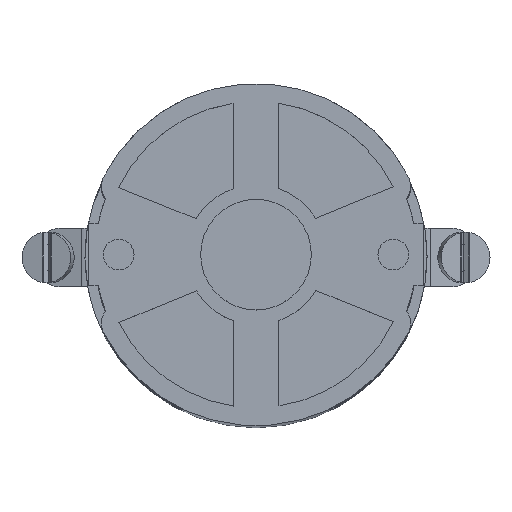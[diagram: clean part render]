
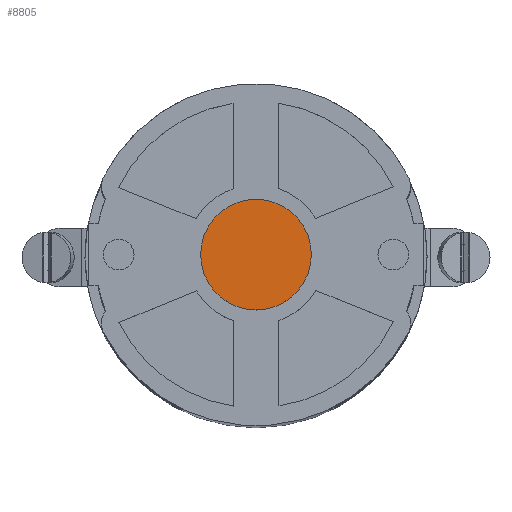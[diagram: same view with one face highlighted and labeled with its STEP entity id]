
A CAD part, top view. The second image highlights one B-rep face of the part: STEP entity #8805.
In plain terms, the highlighted planar face has unit normal (0, 0, 1).
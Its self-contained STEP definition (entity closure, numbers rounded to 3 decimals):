
#1176=FACE_OUTER_BOUND('',#12380,.T.);
#8805=ADVANCED_FACE('',(#1176),#10476,.T.);
#10476=PLANE('',#32441);
#12380=EDGE_LOOP('',(#15098));
#15098=ORIENTED_EDGE('',*,*,#27182,.F.);
#23927=VERTEX_POINT('',#44563);
#27182=EDGE_CURVE('',#23927,#23927,#31359,.T.);
#31359=CIRCLE('',#32440,6.15);
#32440=AXIS2_PLACEMENT_3D('',#44562,#35932,#35933);
#32441=AXIS2_PLACEMENT_3D('',#44564,#35934,#35935);
#35932=DIRECTION('',(0.,0.,-1.));
#35933=DIRECTION('',(1.,0.,0.));
#35934=DIRECTION('',(0.,0.,1.));
#35935=DIRECTION('',(1.,0.,0.));
#44562=CARTESIAN_POINT('',(0.,0.,127.7));
#44563=CARTESIAN_POINT('',(6.15,0.,127.7));
#44564=CARTESIAN_POINT('',(0.,0.,127.7));
